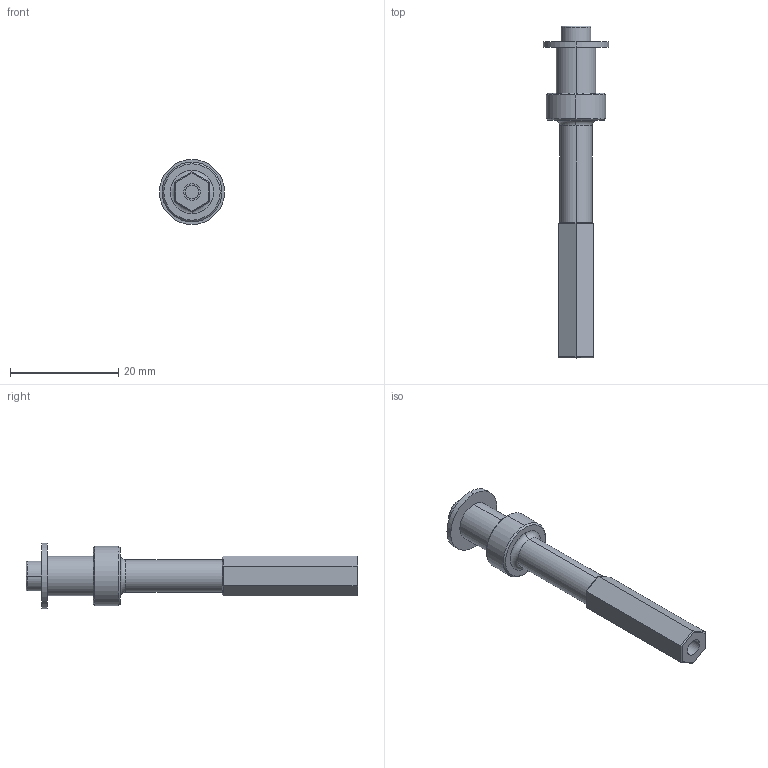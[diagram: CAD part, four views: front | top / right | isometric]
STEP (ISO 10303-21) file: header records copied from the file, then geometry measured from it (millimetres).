
FILE_DESCRIPTION((''),'2;1');
FILE_NAME('DJSXS80-80CNM_HARD','2018-10-23T10:58:05',('GREEXTADU'),(''),'CREO PARAMETRIC BY PTC INC, 2018260','CREO PARAMETRIC BY PTC INC, 2018260','');
FILE_SCHEMA(('AUTOMOTIVE_DESIGN { 1 0 10303 214 1 1 1 1 }'));
Length unit declared in the file: millimetre
Products named in the file (1): DJSXS80-80CNM_HARD
Bounding box: 12 x 61.2 x 12 mm (x, y, z)
Volume: 2197.1 mm3; surface area: 2150.7 mm2
Topology: 1 solids, 2 shells, 70 faces, 148 edges, 90 vertices
Faces by surface type: plane 42, cylinder 20, torus 4, cone 4
Entity records: 2709 total; most frequent: DIRECTION 346, CARTESIAN_POINT 310, ORIENTED_EDGE 296, EDGE_CURVE 148, AXIS2_PLACEMENT_3D 128, VECTOR 90, LINE 90, VERTEX_POINT 90
